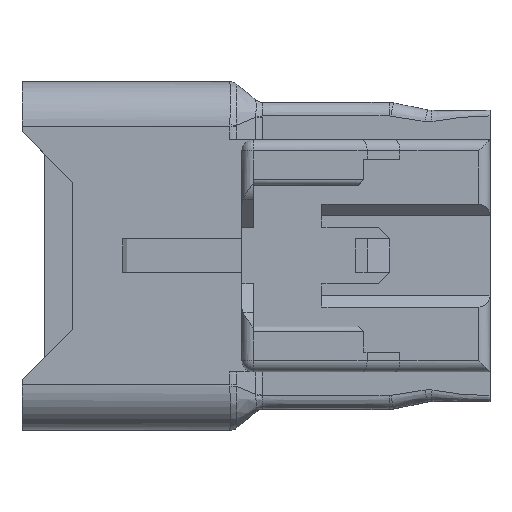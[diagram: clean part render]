
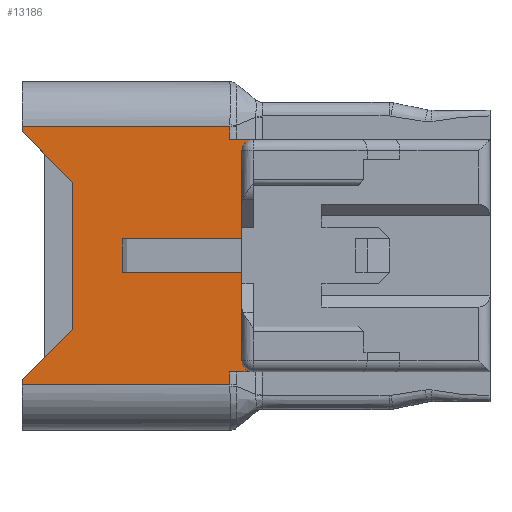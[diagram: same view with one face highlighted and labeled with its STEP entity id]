
A CAD part, top view. The second image highlights one B-rep face of the part: STEP entity #13186.
In plain terms, the highlighted planar face has unit normal (0, 0, 1).
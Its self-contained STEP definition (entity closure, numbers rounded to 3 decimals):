
#1210=AXIS2_PLACEMENT_3D('Circle Axis2P3D',#1208,#1209,$) ;
#13133=AXIS2_PLACEMENT_3D('Plane Axis2P3D',#13130,#13131,#13132) ;
#13146=AXIS2_PLACEMENT_3D('Circle Axis2P3D',#13144,#13145,$) ;
#1139=CARTESIAN_POINT('Vertex',(-10.553,8.5,5.)) ;
#1142=CARTESIAN_POINT('Line Origine',(-5.276,8.5,5.)) ;
#1146=CARTESIAN_POINT('Vertex',(0.,8.5,5.)) ;
#1191=CARTESIAN_POINT('Vertex',(1.,-0.3,5.)) ;
#1205=CARTESIAN_POINT('Vertex',(0.,0.7,5.)) ;
#1208=CARTESIAN_POINT('Axis2P3D Location',(1.,0.7,5.)) ;
#7502=CARTESIAN_POINT('Vertex',(-19.5,-1.45,5.)) ;
#7505=CARTESIAN_POINT('Line Origine',(-19.5,-1.225,5.)) ;
#7509=CARTESIAN_POINT('Vertex',(-19.5,-1.,5.)) ;
#7550=CARTESIAN_POINT('Vertex',(-19.5,21.,5.)) ;
#7553=CARTESIAN_POINT('Line Origine',(-19.5,21.225,5.)) ;
#7557=CARTESIAN_POINT('Vertex',(-19.5,21.45,5.)) ;
#7638=CARTESIAN_POINT('Vertex',(-15.,16.5,5.)) ;
#7641=CARTESIAN_POINT('Line Origine',(-17.25,18.75,5.)) ;
#7810=CARTESIAN_POINT('Line Origine',(-9.508,-1.45,5.)) ;
#7814=CARTESIAN_POINT('Vertex',(-1.081,-1.45,5.)) ;
#8263=CARTESIAN_POINT('Line Origine',(-9.508,21.45,5.)) ;
#8267=CARTESIAN_POINT('Vertex',(-1.081,21.45,5.)) ;
#10202=CARTESIAN_POINT('Line Origine',(-1.081,9.165,5.)) ;
#10206=CARTESIAN_POINT('Vertex',(-1.081,20.3,5.)) ;
#12374=CARTESIAN_POINT('Line Origine',(-1.081,9.165,5.)) ;
#12378=CARTESIAN_POINT('Vertex',(-1.081,-0.3,5.)) ;
#12508=CARTESIAN_POINT('Line Origine',(-17.25,1.25,5.)) ;
#12512=CARTESIAN_POINT('Vertex',(-15.,3.5,5.)) ;
#12527=CARTESIAN_POINT('Line Origine',(-15.,10.,5.)) ;
#12972=CARTESIAN_POINT('Line Origine',(-0.04,20.3,5.)) ;
#12976=CARTESIAN_POINT('Vertex',(1.,20.3,5.)) ;
#13083=CARTESIAN_POINT('Line Origine',(-0.04,-0.3,5.)) ;
#13130=CARTESIAN_POINT('Axis2P3D Location',(0.,-1.45,5.)) ;
#13135=CARTESIAN_POINT('Line Origine',(0.,15.4,5.)) ;
#13139=CARTESIAN_POINT('Vertex',(0.,11.5,5.)) ;
#13141=CARTESIAN_POINT('Vertex',(0.,19.3,5.)) ;
#13144=CARTESIAN_POINT('Axis2P3D Location',(1.,19.3,5.)) ;
#13149=CARTESIAN_POINT('Line Origine',(0.,4.6,5.)) ;
#13154=CARTESIAN_POINT('Line Origine',(-10.553,10.,5.)) ;
#13158=CARTESIAN_POINT('Vertex',(-10.553,11.5,5.)) ;
#13161=CARTESIAN_POINT('Line Origine',(-5.276,11.5,5.)) ;
#1143=DIRECTION('Vector Direction',(-1.,0.,0.)) ;
#1209=DIRECTION('Axis2P3D Direction',(0.,0.,1.)) ;
#7506=DIRECTION('Vector Direction',(0.,1.,0.)) ;
#7554=DIRECTION('Vector Direction',(0.,1.,0.)) ;
#7642=DIRECTION('Vector Direction',(-0.707,0.707,0.)) ;
#7811=DIRECTION('Vector Direction',(1.,0.,0.)) ;
#8264=DIRECTION('Vector Direction',(1.,0.,0.)) ;
#10203=DIRECTION('Vector Direction',(0.,1.,0.)) ;
#12375=DIRECTION('Vector Direction',(0.,1.,0.)) ;
#12509=DIRECTION('Vector Direction',(0.707,0.707,0.)) ;
#12528=DIRECTION('Vector Direction',(0.,1.,0.)) ;
#12973=DIRECTION('Vector Direction',(-1.,0.,0.)) ;
#13084=DIRECTION('Vector Direction',(-1.,0.,0.)) ;
#13131=DIRECTION('Axis2P3D Direction',(0.,-0.,1.)) ;
#13132=DIRECTION('Axis2P3D XDirection',(0.,1.,0.)) ;
#13136=DIRECTION('Vector Direction',(0.,1.,0.)) ;
#13145=DIRECTION('Axis2P3D Direction',(0.,-0.,1.)) ;
#13150=DIRECTION('Vector Direction',(0.,1.,0.)) ;
#13155=DIRECTION('Vector Direction',(0.,1.,0.)) ;
#13162=DIRECTION('Vector Direction',(-1.,0.,0.)) ;
#1144=VECTOR('Line Direction',#1143,1.) ;
#7507=VECTOR('Line Direction',#7506,1.) ;
#7555=VECTOR('Line Direction',#7554,1.) ;
#7643=VECTOR('Line Direction',#7642,1.) ;
#7812=VECTOR('Line Direction',#7811,1.) ;
#8265=VECTOR('Line Direction',#8264,1.) ;
#10204=VECTOR('Line Direction',#10203,1.) ;
#12376=VECTOR('Line Direction',#12375,1.) ;
#12510=VECTOR('Line Direction',#12509,1.) ;
#12529=VECTOR('Line Direction',#12528,1.) ;
#12974=VECTOR('Line Direction',#12973,1.) ;
#13085=VECTOR('Line Direction',#13084,1.) ;
#13137=VECTOR('Line Direction',#13136,1.) ;
#13151=VECTOR('Line Direction',#13150,1.) ;
#13156=VECTOR('Line Direction',#13155,1.) ;
#13163=VECTOR('Line Direction',#13162,1.) ;
#13167=ORIENTED_EDGE('',*,*,#13143,.T.) ;
#13168=ORIENTED_EDGE('',*,*,#13148,.F.) ;
#13169=ORIENTED_EDGE('',*,*,#12978,.T.) ;
#13170=ORIENTED_EDGE('',*,*,#10208,.F.) ;
#13171=ORIENTED_EDGE('',*,*,#8269,.T.) ;
#13172=ORIENTED_EDGE('',*,*,#7559,.T.) ;
#13173=ORIENTED_EDGE('',*,*,#7645,.F.) ;
#13174=ORIENTED_EDGE('',*,*,#12531,.F.) ;
#13175=ORIENTED_EDGE('',*,*,#12514,.F.) ;
#13176=ORIENTED_EDGE('',*,*,#7511,.T.) ;
#13177=ORIENTED_EDGE('',*,*,#7816,.F.) ;
#13178=ORIENTED_EDGE('',*,*,#12380,.F.) ;
#13179=ORIENTED_EDGE('',*,*,#13087,.T.) ;
#13180=ORIENTED_EDGE('',*,*,#1212,.F.) ;
#13181=ORIENTED_EDGE('',*,*,#13153,.T.) ;
#13182=ORIENTED_EDGE('',*,*,#1148,.F.) ;
#13183=ORIENTED_EDGE('',*,*,#13160,.T.) ;
#13184=ORIENTED_EDGE('',*,*,#13165,.T.) ;
#13186=ADVANCED_FACE('\X2\FF8AFF9FFF70FF82\X0\ \X2\FF8EFF9EFF83FF9EFF68FF70\X0\',(#13185),#13134,.T.) ;
#1211=CIRCLE('generated circle',#1210,1.) ;
#13147=CIRCLE('generated circle',#13146,1.) ;
#1148=EDGE_CURVE('',#1140,#1147,#1145,.F.) ;
#1212=EDGE_CURVE('',#1206,#1192,#1211,.T.) ;
#7511=EDGE_CURVE('',#7510,#7503,#7508,.F.) ;
#7559=EDGE_CURVE('',#7558,#7551,#7556,.F.) ;
#7645=EDGE_CURVE('',#7639,#7551,#7644,.T.) ;
#7816=EDGE_CURVE('',#7815,#7503,#7813,.F.) ;
#8269=EDGE_CURVE('',#8268,#7558,#8266,.F.) ;
#10208=EDGE_CURVE('',#8268,#10207,#10205,.F.) ;
#12380=EDGE_CURVE('',#12379,#7815,#12377,.F.) ;
#12514=EDGE_CURVE('',#7510,#12513,#12511,.T.) ;
#12531=EDGE_CURVE('',#12513,#7639,#12530,.T.) ;
#12978=EDGE_CURVE('',#12977,#10207,#12975,.T.) ;
#13087=EDGE_CURVE('',#12379,#1192,#13086,.F.) ;
#13143=EDGE_CURVE('',#13140,#13142,#13138,.T.) ;
#13148=EDGE_CURVE('',#12977,#13142,#13147,.T.) ;
#13153=EDGE_CURVE('',#1206,#1147,#13152,.T.) ;
#13160=EDGE_CURVE('',#1140,#13159,#13157,.T.) ;
#13165=EDGE_CURVE('',#13159,#13140,#13164,.F.) ;
#13166=EDGE_LOOP('',(#13167,#13168,#13169,#13170,#13171,#13172,#13173,#13174,#13175,#13176,#13177,#13178,#13179,#13180,#13181,#13182,#13183,#13184)) ;
#13185=FACE_OUTER_BOUND('',#13166,.T.) ;
#1145=LINE('Line',#1142,#1144) ;
#7508=LINE('Line',#7505,#7507) ;
#7556=LINE('Line',#7553,#7555) ;
#7644=LINE('Line',#7641,#7643) ;
#7813=LINE('Line',#7810,#7812) ;
#8266=LINE('Line',#8263,#8265) ;
#10205=LINE('Line',#10202,#10204) ;
#12377=LINE('Line',#12374,#12376) ;
#12511=LINE('Line',#12508,#12510) ;
#12530=LINE('Line',#12527,#12529) ;
#12975=LINE('Line',#12972,#12974) ;
#13086=LINE('Line',#13083,#13085) ;
#13138=LINE('Line',#13135,#13137) ;
#13152=LINE('Line',#13149,#13151) ;
#13157=LINE('Line',#13154,#13156) ;
#13164=LINE('Line',#13161,#13163) ;
#13134=PLANE('',#13133) ;
#1140=VERTEX_POINT('',#1139) ;
#1147=VERTEX_POINT('',#1146) ;
#1192=VERTEX_POINT('',#1191) ;
#1206=VERTEX_POINT('',#1205) ;
#7503=VERTEX_POINT('',#7502) ;
#7510=VERTEX_POINT('',#7509) ;
#7551=VERTEX_POINT('',#7550) ;
#7558=VERTEX_POINT('',#7557) ;
#7639=VERTEX_POINT('',#7638) ;
#7815=VERTEX_POINT('',#7814) ;
#8268=VERTEX_POINT('',#8267) ;
#10207=VERTEX_POINT('',#10206) ;
#12379=VERTEX_POINT('',#12378) ;
#12513=VERTEX_POINT('',#12512) ;
#12977=VERTEX_POINT('',#12976) ;
#13140=VERTEX_POINT('',#13139) ;
#13142=VERTEX_POINT('',#13141) ;
#13159=VERTEX_POINT('',#13158) ;
